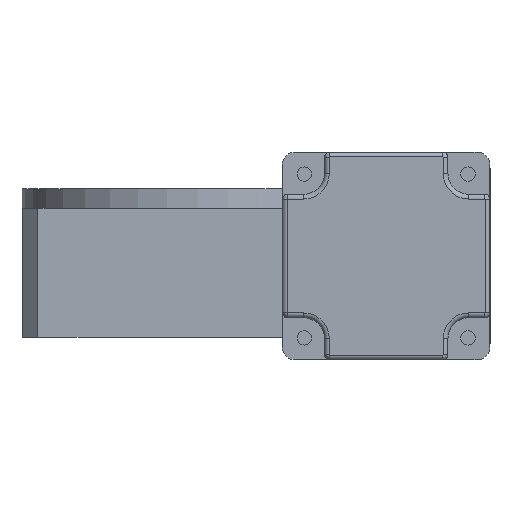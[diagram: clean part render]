
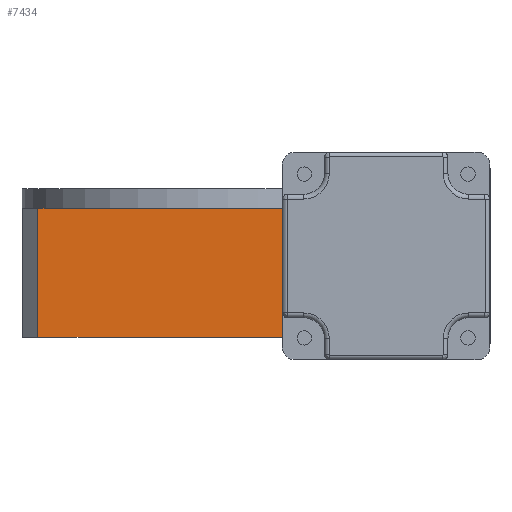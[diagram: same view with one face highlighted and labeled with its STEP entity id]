
A CAD part, front view. The second image highlights one B-rep face of the part: STEP entity #7434.
In plain terms, the highlighted planar face has unit normal (0, -1, 0).
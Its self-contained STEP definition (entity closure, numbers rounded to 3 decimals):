
#154 = EDGE_CURVE ( 'NONE', #1718, #9772, #9291, .T. ) ;
#239 = CARTESIAN_POINT ( 'NONE',  ( 239.724, -176.879, 0. ) ) ;
#581 = DIRECTION ( 'NONE',  ( 0., 1., 0. ) ) ;
#819 = DIRECTION ( 'NONE',  ( 1., 0., 0. ) ) ;
#1663 = LINE ( 'NONE', #13537, #9916 ) ;
#1718 = VERTEX_POINT ( 'NONE', #6992 ) ;
#1800 = CARTESIAN_POINT ( 'NONE',  ( -30.276, -176.879, 93. ) ) ;
#2257 = ORIENTED_EDGE ( 'NONE', *, *, #154, .T. ) ;
#2264 = LINE ( 'NONE', #6420, #7033 ) ;
#2463 = EDGE_CURVE ( 'NONE', #2770, #5326, #1663, .T. ) ;
#2770 = VERTEX_POINT ( 'NONE', #3389 ) ;
#3183 = ORIENTED_EDGE ( 'NONE', *, *, #12574, .F. ) ;
#3324 = ORIENTED_EDGE ( 'NONE', *, *, #2463, .F. ) ;
#3389 = CARTESIAN_POINT ( 'NONE',  ( 69.724, -176.879, 81. ) ) ;
#3475 = DIRECTION ( 'NONE',  ( 0., 0., -1. ) ) ;
#3868 = FACE_OUTER_BOUND ( 'NONE', #11817, .T. ) ;
#3991 = VERTEX_POINT ( 'NONE', #8164 ) ;
#5326 = VERTEX_POINT ( 'NONE', #9856 ) ;
#6172 = ORIENTED_EDGE ( 'NONE', *, *, #7199, .F. ) ;
#6358 = CARTESIAN_POINT ( 'NONE',  ( -30.276, -176.879, 0. ) ) ;
#6420 = CARTESIAN_POINT ( 'NONE',  ( 229.724, -176.879, 93. ) ) ;
#6462 = DIRECTION ( 'NONE',  ( 1., 0., 0. ) ) ;
#6925 = DIRECTION ( 'NONE',  ( 0., 0., -1. ) ) ;
#6992 = CARTESIAN_POINT ( 'NONE',  ( -30.276, -176.879, 81. ) ) ;
#7033 = VECTOR ( 'NONE', #6925, 1000. ) ;
#7089 = CARTESIAN_POINT ( 'NONE',  ( -30.276, -176.879, 81. ) ) ;
#7199 = EDGE_CURVE ( 'NONE', #5326, #3991, #2264, .T. ) ;
#7385 = PLANE ( 'NONE',  #14886 ) ;
#7434 = ADVANCED_FACE ( 'NONE', ( #3868 ), #7385, .F. ) ;
#8164 = CARTESIAN_POINT ( 'NONE',  ( 229.724, -176.879, 0. ) ) ;
#9291 = LINE ( 'NONE', #13980, #11549 ) ;
#9586 = EDGE_CURVE ( 'NONE', #1718, #2770, #14068, .T. ) ;
#9772 = VERTEX_POINT ( 'NONE', #6358 ) ;
#9856 = CARTESIAN_POINT ( 'NONE',  ( 229.724, -176.879, 81. ) ) ;
#9916 = VECTOR ( 'NONE', #819, 1000. ) ;
#10777 = VECTOR ( 'NONE', #14327, 1000. ) ;
#11549 = VECTOR ( 'NONE', #3475, 1000. ) ;
#11791 = LINE ( 'NONE', #239, #10777 ) ;
#11817 = EDGE_LOOP ( 'NONE', ( #13941, #2257, #3183, #6172, #3324 ) ) ;
#11839 = DIRECTION ( 'NONE',  ( 1., 0., 0. ) ) ;
#12574 = EDGE_CURVE ( 'NONE', #3991, #9772, #11791, .T. ) ;
#13537 = CARTESIAN_POINT ( 'NONE',  ( -30.276, -176.879, 81. ) ) ;
#13941 = ORIENTED_EDGE ( 'NONE', *, *, #9586, .F. ) ;
#13980 = CARTESIAN_POINT ( 'NONE',  ( -30.276, -176.879, 93. ) ) ;
#14068 = LINE ( 'NONE', #7089, #14388 ) ;
#14327 = DIRECTION ( 'NONE',  ( -1., 0., 0. ) ) ;
#14388 = VECTOR ( 'NONE', #11839, 1000. ) ;
#14886 = AXIS2_PLACEMENT_3D ( 'NONE', #1800, #581, #6462 ) ;
